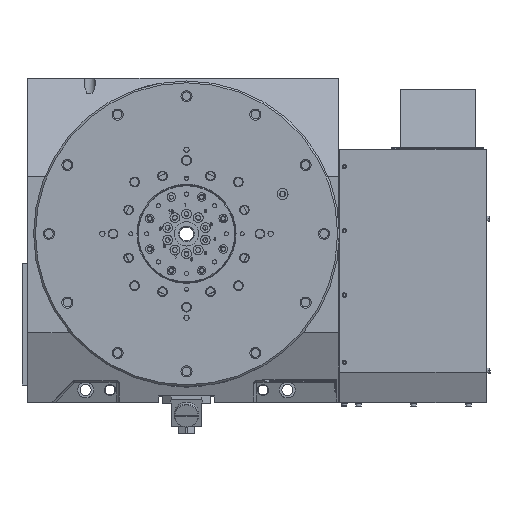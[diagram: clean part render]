
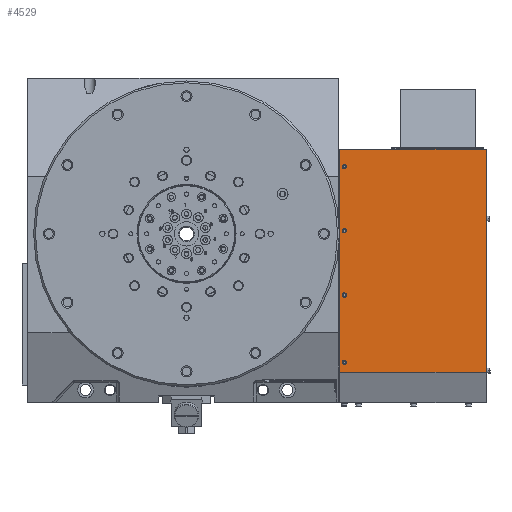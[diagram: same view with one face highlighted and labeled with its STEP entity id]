
A CAD part, top view. The second image highlights one B-rep face of the part: STEP entity #4529.
In plain terms, the highlighted planar face has unit normal (0, 0, 1).
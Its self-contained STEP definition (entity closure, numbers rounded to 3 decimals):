
#745 = LINE ( 'NONE', #37562, #15528 ) ;
#1186 = ORIENTED_EDGE ( 'NONE', *, *, #31653, .F. ) ;
#1882 = FACE_OUTER_BOUND ( 'NONE', #42577, .T. ) ;
#2041 = CIRCLE ( 'NONE', #46978, 3.5 ) ;
#2543 = VERTEX_POINT ( 'NONE', #25526 ) ;
#2590 = CARTESIAN_POINT ( 'NONE',  ( 261.5, -210., 198.3 ) ) ;
#3441 = AXIS2_PLACEMENT_3D ( 'NONE', #20351, #24158, #40653 ) ;
#4008 = DIRECTION ( 'NONE',  ( -1., 0., 0. ) ) ;
#4529 = ADVANCED_FACE ( 'NONE', ( #34625, #18657, #35160, #51693, #1882 ), #14595, .F. ) ;
#5159 = CIRCLE ( 'NONE', #3441, 3.5 ) ;
#6165 = CARTESIAN_POINT ( 'NONE',  ( 258., 110., 198.3 ) ) ;
#6479 = DIRECTION ( 'NONE',  ( 0., 0., -1. ) ) ;
#6969 = EDGE_CURVE ( 'NONE', #32552, #2543, #5159, .T. ) ;
#8326 = DIRECTION ( 'NONE',  ( 0., 0., 1. ) ) ;
#8821 = DIRECTION ( 'NONE',  ( 1., 0., 0. ) ) ;
#8998 = ORIENTED_EDGE ( 'NONE', *, *, #18682, .F. ) ;
#10224 = EDGE_CURVE ( 'NONE', #27479, #11575, #34999, .T. ) ;
#10578 = CIRCLE ( 'NONE', #21808, 3.5 ) ;
#10709 = CARTESIAN_POINT ( 'NONE',  ( 258., 5., 198.3 ) ) ;
#11575 = VERTEX_POINT ( 'NONE', #48230 ) ;
#12183 = VERTEX_POINT ( 'NONE', #26639 ) ;
#12666 = AXIS2_PLACEMENT_3D ( 'NONE', #50461, #17692, #45588 ) ;
#13413 = EDGE_CURVE ( 'NONE', #20532, #36649, #745, .T. ) ;
#13757 = DIRECTION ( 'NONE',  ( -1., 0., 0. ) ) ;
#14253 = EDGE_CURVE ( 'NONE', #36649, #35520, #51442, .T. ) ;
#14384 = CIRCLE ( 'NONE', #12666, 3.5 ) ;
#14595 = PLANE ( 'NONE',  #39545 ) ;
#15160 = EDGE_CURVE ( 'NONE', #35520, #37354, #36980, .T. ) ;
#15503 = DIRECTION ( 'NONE',  ( 0., 0., 1. ) ) ;
#15528 = VECTOR ( 'NONE', #37812, 1000. ) ;
#16447 = CARTESIAN_POINT ( 'NONE',  ( 258., -100., 198.3 ) ) ;
#16513 = AXIS2_PLACEMENT_3D ( 'NONE', #16447, #8326, #4008 ) ;
#16812 = VECTOR ( 'NONE', #8821, 1000. ) ;
#17315 = CIRCLE ( 'NONE', #42401, 3.5 ) ;
#17692 = DIRECTION ( 'NONE',  ( 0., 0., 1. ) ) ;
#17808 = EDGE_CURVE ( 'NONE', #2543, #32552, #10578, .T. ) ;
#18582 = ORIENTED_EDGE ( 'NONE', *, *, #14253, .F. ) ;
#18622 = DIRECTION ( 'NONE',  ( 0., 0., 1. ) ) ;
#18657 = FACE_BOUND ( 'NONE', #51184, .T. ) ;
#18682 = EDGE_CURVE ( 'NONE', #39998, #48073, #2041, .T. ) ;
#18813 = CARTESIAN_POINT ( 'NONE',  ( 250., 138.3, 198.3 ) ) ;
#19106 = DIRECTION ( 'NONE',  ( 0., 0., 1. ) ) ;
#20001 = CARTESIAN_POINT ( 'NONE',  ( 261.5, -100., 198.3 ) ) ;
#20237 = ORIENTED_EDGE ( 'NONE', *, *, #13413, .F. ) ;
#20351 = CARTESIAN_POINT ( 'NONE',  ( 258., 5., 198.3 ) ) ;
#20532 = VERTEX_POINT ( 'NONE', #43545 ) ;
#21808 = AXIS2_PLACEMENT_3D ( 'NONE', #10709, #26960, #40949 ) ;
#22009 = AXIS2_PLACEMENT_3D ( 'NONE', #35568, #33118, #45302 ) ;
#22998 = DIRECTION ( 'NONE',  ( 0., 1., 0. ) ) ;
#23583 = CARTESIAN_POINT ( 'NONE',  ( 490.3, 138.3, 198.3 ) ) ;
#24158 = DIRECTION ( 'NONE',  ( 0., 0., 1. ) ) ;
#25526 = CARTESIAN_POINT ( 'NONE',  ( 261.5, 5., 198.3 ) ) ;
#26639 = CARTESIAN_POINT ( 'NONE',  ( 254.5, -100., 198.3 ) ) ;
#26960 = DIRECTION ( 'NONE',  ( 0., 0., 1. ) ) ;
#27479 = VERTEX_POINT ( 'NONE', #38119 ) ;
#27773 = DIRECTION ( 'NONE',  ( -1., 0., 0. ) ) ;
#28030 = CARTESIAN_POINT ( 'NONE',  ( 250., -226.144, 198.3 ) ) ;
#28713 = ORIENTED_EDGE ( 'NONE', *, *, #15160, .F. ) ;
#31164 = ORIENTED_EDGE ( 'NONE', *, *, #32836, .F. ) ;
#31194 = VERTEX_POINT ( 'NONE', #20001 ) ;
#31653 = EDGE_CURVE ( 'NONE', #31194, #12183, #46754, .T. ) ;
#32043 = VECTOR ( 'NONE', #22998, 1000. ) ;
#32552 = VERTEX_POINT ( 'NONE', #49231 ) ;
#32675 = EDGE_LOOP ( 'NONE', ( #51333, #49445 ) ) ;
#32836 = EDGE_CURVE ( 'NONE', #48073, #39998, #17315, .T. ) ;
#33118 = DIRECTION ( 'NONE',  ( 0., 0., 1. ) ) ;
#33842 = ORIENTED_EDGE ( 'NONE', *, *, #50242, .F. ) ;
#33920 = VECTOR ( 'NONE', #48820, 1000. ) ;
#34393 = ORIENTED_EDGE ( 'NONE', *, *, #44612, .F. ) ;
#34625 = FACE_BOUND ( 'NONE', #43459, .T. ) ;
#34999 = CIRCLE ( 'NONE', #22009, 3.5 ) ;
#35052 = EDGE_CURVE ( 'NONE', #20532, #37354, #40387, .T. ) ;
#35160 = FACE_BOUND ( 'NONE', #32675, .T. ) ;
#35215 = AXIS2_PLACEMENT_3D ( 'NONE', #6165, #18622, #13757 ) ;
#35520 = VERTEX_POINT ( 'NONE', #18813 ) ;
#35568 = CARTESIAN_POINT ( 'NONE',  ( 258., 110., 198.3 ) ) ;
#36649 = VERTEX_POINT ( 'NONE', #28030 ) ;
#36980 = LINE ( 'NONE', #41832, #16812 ) ;
#37354 = VERTEX_POINT ( 'NONE', #23583 ) ;
#37562 = CARTESIAN_POINT ( 'NONE',  ( 488., -226.144, 198.3 ) ) ;
#37812 = DIRECTION ( 'NONE',  ( -1., 0., 0. ) ) ;
#38119 = CARTESIAN_POINT ( 'NONE',  ( 254.5, 110., 198.3 ) ) ;
#39545 = AXIS2_PLACEMENT_3D ( 'NONE', #47640, #6479, #42483 ) ;
#39998 = VERTEX_POINT ( 'NONE', #2590 ) ;
#40387 = LINE ( 'NONE', #44455, #33920 ) ;
#40653 = DIRECTION ( 'NONE',  ( -1., 0., 0. ) ) ;
#40949 = DIRECTION ( 'NONE',  ( -1., 0., 0. ) ) ;
#41832 = CARTESIAN_POINT ( 'NONE',  ( 247.7, 138.3, 198.3 ) ) ;
#42084 = CIRCLE ( 'NONE', #35215, 3.5 ) ;
#42401 = AXIS2_PLACEMENT_3D ( 'NONE', #51877, #19106, #27773 ) ;
#42483 = DIRECTION ( 'NONE',  ( 1., 0., 0. ) ) ;
#42577 = EDGE_LOOP ( 'NONE', ( #18582, #20237, #49473, #28713 ) ) ;
#43459 = EDGE_LOOP ( 'NONE', ( #33842, #1186 ) ) ;
#43545 = CARTESIAN_POINT ( 'NONE',  ( 490.3, -226.144, 198.3 ) ) ;
#44455 = CARTESIAN_POINT ( 'NONE',  ( 490.3, 136., 198.3 ) ) ;
#44612 = EDGE_CURVE ( 'NONE', #11575, #27479, #42084, .T. ) ;
#45145 = ORIENTED_EDGE ( 'NONE', *, *, #10224, .F. ) ;
#45302 = DIRECTION ( 'NONE',  ( -1., 0., 0. ) ) ;
#45588 = DIRECTION ( 'NONE',  ( -1., 0., 0. ) ) ;
#46243 = CARTESIAN_POINT ( 'NONE',  ( 254.5, -210., 198.3 ) ) ;
#46754 = CIRCLE ( 'NONE', #16513, 3.5 ) ;
#46978 = AXIS2_PLACEMENT_3D ( 'NONE', #50337, #15503, #53153 ) ;
#47640 = CARTESIAN_POINT ( 'NONE',  ( 247.7, 136., 198.3 ) ) ;
#47918 = CARTESIAN_POINT ( 'NONE',  ( 250., -226.144, 198.3 ) ) ;
#48073 = VERTEX_POINT ( 'NONE', #46243 ) ;
#48230 = CARTESIAN_POINT ( 'NONE',  ( 261.5, 110., 198.3 ) ) ;
#48463 = EDGE_LOOP ( 'NONE', ( #31164, #8998 ) ) ;
#48820 = DIRECTION ( 'NONE',  ( 0., 1., 0. ) ) ;
#49231 = CARTESIAN_POINT ( 'NONE',  ( 254.5, 5., 198.3 ) ) ;
#49445 = ORIENTED_EDGE ( 'NONE', *, *, #17808, .F. ) ;
#49473 = ORIENTED_EDGE ( 'NONE', *, *, #35052, .T. ) ;
#50242 = EDGE_CURVE ( 'NONE', #12183, #31194, #14384, .T. ) ;
#50337 = CARTESIAN_POINT ( 'NONE',  ( 258., -210., 198.3 ) ) ;
#50461 = CARTESIAN_POINT ( 'NONE',  ( 258., -100., 198.3 ) ) ;
#51184 = EDGE_LOOP ( 'NONE', ( #45145, #34393 ) ) ;
#51333 = ORIENTED_EDGE ( 'NONE', *, *, #6969, .F. ) ;
#51442 = LINE ( 'NONE', #47918, #32043 ) ;
#51693 = FACE_BOUND ( 'NONE', #48463, .T. ) ;
#51877 = CARTESIAN_POINT ( 'NONE',  ( 258., -210., 198.3 ) ) ;
#53153 = DIRECTION ( 'NONE',  ( -1., 0., 0. ) ) ;
